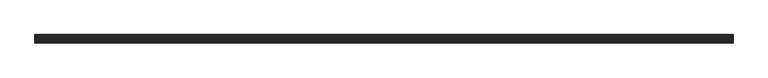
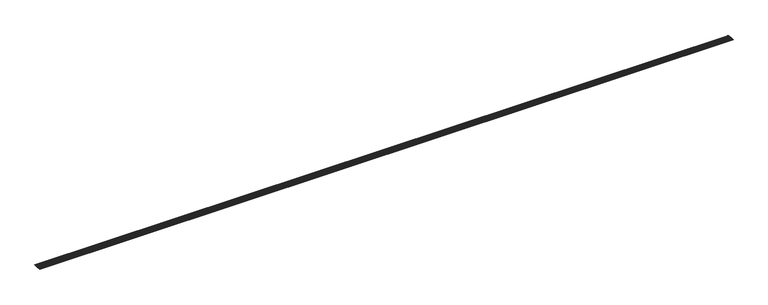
"""IFC4 building model written with IfcOpenShell, lengths in millimetres: slab geometry, ROSA GRES_001 (2 filas) : Piezas 001_Aqua_Blanco_Anti-Slip."""

from ifc_helpers import new_model, si_unit, point, frame, frame_2d, origin, place, context, project, spatial, polyline, circle_curve, trimmed, segment, composite_curve, outline, extrude, source, transform, mapped, element, save


def slab_71ca83d1(model_context):
    return source(origin(), model_context, "Body", "SweptSolid", [
        extrude(outline(polyline([(59.4997999, 0.0), (59.4997999, -20529.8565596), (-59.4998, -20529.8565596), (-59.4998, 0.0), (59.4997999, 0.0)])), frame((20529.8565596, -183.3614376, 204.5238637), z_axis=(0.0, 0.0811270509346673, 0.9967037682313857), x_axis=(0.0, -0.9967037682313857, 0.0811270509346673)), (0.0, 0.0, 1.0), 5.0),
        extrude(outline(polyline([(59.4998, 0.0), (59.4998, -20529.8565596), (-59.4997999, -20529.8565596), (-59.4997999, 0.0), (59.4998, 0.0)])), frame((20529.8565596, -307.9490099, 214.6647126), z_axis=(0.0, 0.08112705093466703, 0.9967037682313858), x_axis=(0.0, -0.9967037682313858, 0.08112705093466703)), (0.0, 0.0, 1.0), 5.0),
        extrude(outline(composite_curve([segment(polyline([(-242.2594772, 214.3344258), (-242.046278, 216.9537305)]), True, "CONTINUOUS"), segment(trimmed(circle_curve(frame_2d((-241.5926747, 222.5265709)), 5.5912705), [point((-242.046278, 216.9537305))], [point((-237.6514463, 218.5605875))], True, "CARTESIAN"), True, "CONTINUOUS"), segment(trimmed(circle_curve(frame_2d((-233.1207211, 221.8369933)), 5.5912705), [point((-237.6514463, 218.5605875))], [point((-229.1794928, 217.8710099))], True, "CARTESIAN"), True, "CONTINUOUS"), segment(trimmed(circle_curve(frame_2d((-224.6487676, 221.1474157)), 5.5912705), [point((-229.1794928, 217.8710099))], [point((-220.7075392, 217.1814322))], True, "CARTESIAN"), True, "CONTINUOUS"), segment(trimmed(circle_curve(frame_2d((-216.176814, 220.457838)), 5.5912705), [point((-220.7075392, 217.1814322))], [point((-212.2355856, 216.4918546))], True, "CARTESIAN"), True, "CONTINUOUS"), segment(trimmed(circle_curve(frame_2d((-207.7048605, 219.7682604)), 5.5912705), [point((-212.2355856, 216.4918546))], [point((-203.7636321, 215.802277))], True, "CARTESIAN"), True, "CONTINUOUS"), segment(trimmed(circle_curve(frame_2d((-199.2329069, 219.0786828)), 5.5912705), [point((-203.7636321, 215.802277))], [point((-195.2916785, 215.1126994))], True, "CARTESIAN"), True, "CONTINUOUS"), segment(trimmed(circle_curve(frame_2d((-190.7609534, 218.3891052)), 5.5912705), [point((-195.2916785, 215.1126994))], [point((-186.819725, 214.4231218))], True, "CARTESIAN"), True, "CONTINUOUS"), segment(trimmed(circle_curve(frame_2d((-182.2889998, 217.6995276)), 5.5912705), [point((-186.819725, 214.4231218))], [point((-178.3477714, 213.7335442))], True, "CARTESIAN"), True, "CONTINUOUS"), segment(trimmed(circle_curve(frame_2d((-173.8170463, 217.00995)), 5.5912705), [point((-178.3477714, 213.7335442))], [point((-169.8758179, 213.0439666))], True, "CARTESIAN"), True, "CONTINUOUS"), segment(trimmed(circle_curve(frame_2d((-165.3450927, 216.3203723)), 5.5912705), [point((-169.8758179, 213.0439666))], [point((-161.4038643, 212.3543889))], True, "CARTESIAN"), True, "CONTINUOUS"), segment(trimmed(circle_curve(frame_2d((-156.8731392, 215.6307947)), 5.5912705), [point((-161.4038643, 212.3543889))], [point((-152.9319108, 211.6648113))], True, "CARTESIAN"), True, "CONTINUOUS"), segment(trimmed(circle_curve(frame_2d((-148.4011856, 214.9412171)), 5.5912705), [point((-152.9319108, 211.6648113))], [point((-144.4599572, 210.9752337))], True, "CARTESIAN"), True, "CONTINUOUS"), segment(trimmed(circle_curve(frame_2d((-139.929232, 214.2516395)), 5.5912705), [point((-144.4599572, 210.9752337))], [point((-135.9880037, 210.2856561))], True, "CARTESIAN"), True, "CONTINUOUS"), segment(trimmed(circle_curve(frame_2d((-131.4572785, 213.5620619)), 5.5912705), [point((-135.9880037, 210.2856561))], [point((-127.5160501, 209.5960785))], True, "CARTESIAN"), True, "CONTINUOUS"), segment(trimmed(circle_curve(frame_2d((-122.9853249, 212.8724843)), 5.5912705), [point((-127.5160501, 209.5960785))], [point((-123.4389282, 207.2996439))], True, "CARTESIAN"), True, "CONTINUOUS"), segment(polyline([(-123.4389282, 207.2996439), (-123.6521274, 204.6803392), (-242.2594772, 214.3344258)]), True, "CONTINUOUS")], self_intersect=False)), frame((0.0, 0.0, 0.0), z_axis=(1.0, 0.0, 0.0), x_axis=(0.0, 1.0, 0.0)), (0.0, 0.0, 1.0), 20529.8565596),
        extrude(outline(composite_curve([segment(polyline([(-366.8470495, 224.4752747), (-366.6338503, 227.0945794)]), True, "CONTINUOUS"), segment(trimmed(circle_curve(frame_2d((-366.180247, 232.6674198)), 5.5912705), [point((-366.6338503, 227.0945794))], [point((-362.2390187, 228.7014364))], True, "CARTESIAN"), True, "CONTINUOUS"), segment(trimmed(circle_curve(frame_2d((-357.7082935, 231.9778422)), 5.5912705), [point((-362.2390187, 228.7014364))], [point((-353.7670651, 228.0118588))], True, "CARTESIAN"), True, "CONTINUOUS"), segment(trimmed(circle_curve(frame_2d((-349.2363399, 231.2882646)), 5.5912705), [point((-353.7670651, 228.0118588))], [point((-345.2951115, 227.3222812))], True, "CARTESIAN"), True, "CONTINUOUS"), segment(trimmed(circle_curve(frame_2d((-340.7643864, 230.5986869)), 5.5912705), [point((-345.2951115, 227.3222812))], [point((-336.823158, 226.6327035))], True, "CARTESIAN"), True, "CONTINUOUS"), segment(trimmed(circle_curve(frame_2d((-332.2924328, 229.9091093)), 5.5912705), [point((-336.823158, 226.6327035))], [point((-328.3512044, 225.9431259))], True, "CARTESIAN"), True, "CONTINUOUS"), segment(trimmed(circle_curve(frame_2d((-323.8204793, 229.2195317)), 5.5912705), [point((-328.3512044, 225.9431259))], [point((-319.8792509, 225.2535483))], True, "CARTESIAN"), True, "CONTINUOUS"), segment(trimmed(circle_curve(frame_2d((-315.3485257, 228.5299541)), 5.5912705), [point((-319.8792509, 225.2535483))], [point((-311.4072973, 224.5639707))], True, "CARTESIAN"), True, "CONTINUOUS"), segment(trimmed(circle_curve(frame_2d((-306.8765722, 227.8403765)), 5.5912705), [point((-311.4072973, 224.5639707))], [point((-302.9353438, 223.8743931))], True, "CARTESIAN"), True, "CONTINUOUS"), segment(trimmed(circle_curve(frame_2d((-298.4046186, 227.1507989)), 5.5912705), [point((-302.9353438, 223.8743931))], [point((-294.4633902, 223.1848155))], True, "CARTESIAN"), True, "CONTINUOUS"), segment(trimmed(circle_curve(frame_2d((-289.9326651, 226.4612213)), 5.5912705), [point((-294.4633902, 223.1848155))], [point((-285.9914367, 222.4952379))], True, "CARTESIAN"), True, "CONTINUOUS"), segment(trimmed(circle_curve(frame_2d((-281.4607115, 225.7716436)), 5.5912705), [point((-285.9914367, 222.4952379))], [point((-277.5194831, 221.8056602))], True, "CARTESIAN"), True, "CONTINUOUS"), segment(trimmed(circle_curve(frame_2d((-272.9887579, 225.082066)), 5.5912705), [point((-277.5194831, 221.8056602))], [point((-269.0475296, 221.1160826))], True, "CARTESIAN"), True, "CONTINUOUS"), segment(trimmed(circle_curve(frame_2d((-264.5168044, 224.3924884)), 5.5912705), [point((-269.0475296, 221.1160826))], [point((-260.575576, 220.426505))], True, "CARTESIAN"), True, "CONTINUOUS"), segment(trimmed(circle_curve(frame_2d((-256.0448508, 223.7029108)), 5.5912705), [point((-260.575576, 220.426505))], [point((-252.1036225, 219.7369274))], True, "CARTESIAN"), True, "CONTINUOUS"), segment(trimmed(circle_curve(frame_2d((-247.5728973, 223.0133332)), 5.5912705), [point((-252.1036225, 219.7369274))], [point((-248.0265006, 217.4404928))], True, "CARTESIAN"), True, "CONTINUOUS"), segment(polyline([(-248.0265006, 217.4404928), (-248.2396998, 214.8211881), (-366.8470495, 224.4752747)]), True, "CONTINUOUS")], self_intersect=False)), frame((0.0, 0.0, 0.0), z_axis=(1.0, 0.0, 0.0), x_axis=(0.0, 1.0, 0.0)), (0.0, 0.0, 1.0), 20529.8565596),
    ])


if __name__ == "__main__":
    model = new_model("IFC4")
    model_context = context("Model", 3, world=origin())
    ifc_project = project(units=[si_unit("LENGTHUNIT", "METRE", prefix="MILLI")], contexts=[model_context])
    site = spatial("IfcSite", under=ifc_project)
    building = spatial("IfcBuilding", under=site)
    placement = place(None, origin())
    slab_shape = slab_71ca83d1(model_context)
    element("IfcSlab", 1, ObjectType="ROSA GRES_001 (2 filas) : Piezas 001_Aqua_Blanco_Anti-Slip", at=placement, inside=building, context=model_context, shape_type="MappedRepresentation", body=[
        mapped(slab_shape, transform((0.0, 0.0, 0.0), x_axis=(1.0, 0.0, 0.0), y_axis=(0.0, 1.0, 0.0), z_axis=(0.0, 0.0, 1.0))),
    ])
    save(model, "model.ifc")
